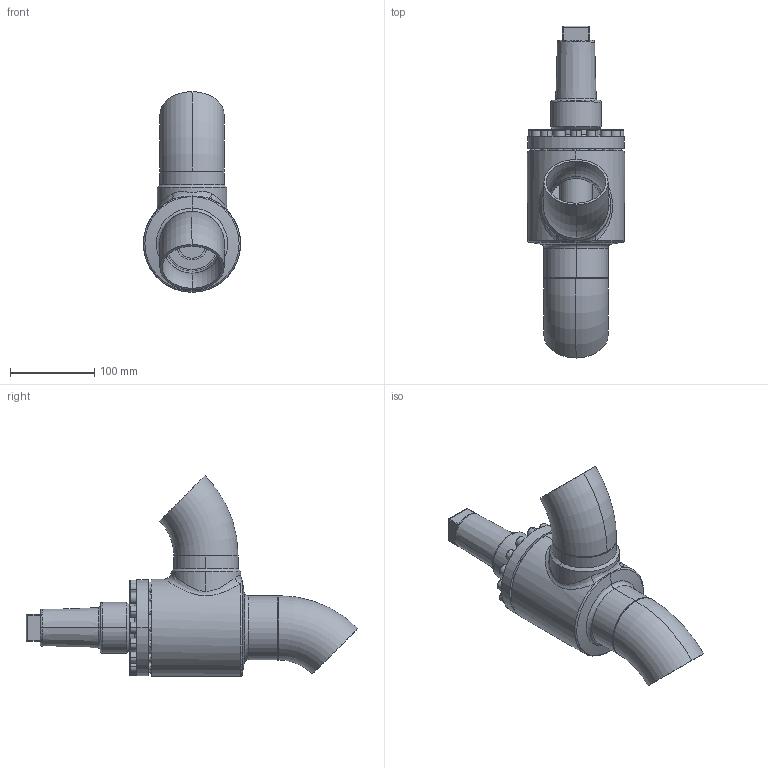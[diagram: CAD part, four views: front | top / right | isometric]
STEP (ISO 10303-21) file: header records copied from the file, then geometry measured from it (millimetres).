
FILE_DESCRIPTION (( 'STEP AP214' ), '1' );
FILE_NAME ('AVR26300D17-DN065_R1_PS40.STEP', '2006-04-27T13:24:42', ( 'Herr Grams' ), ( 'AWP GmbH' ), 'SwSTEP 2.0', 'SolidWorks 2002296', '' );
FILE_SCHEMA (( 'AUTOMOTIVE_DESIGN' ));
Length unit declared in the file: millimetre
Products named in the file (10): AVR26300D17-DN065_R1_PS40; Gehäuse-kpl16300-DN065_R1_Standard; Gehäuse16400-DN065_Standard; bead-DN065-2_Standard; Rohrbogen 45°_Rohrbogen-DN065-45°; bead-DN065-3_Standard; AVR26300K17_Deck+Schr-DN65_Standard; Deckel26300K17-DN65_Standard; Zylinderschraube-DIN912_M 8x 25; Kappe16402_DN040-65_Standard
Assembly tree (25 placements, depth 3):
  AVR26300D17-DN065_R1_PS40
    Kappe16402_DN040-65_Standard
    AVR26300K17_Deck+Schr-DN65_Standard
      Zylinderschraube-DIN912_M 8x 25  x16
      Deckel26300K17-DN65_Standard
    Gehäuse-kpl16300-DN065_R1_Standard
      bead-DN065-3_Standard
      Rohrbogen 45°_Rohrbogen-DN065-45°  x2
      Gehäuse16400-DN065_Standard
      bead-DN065-2_Standard
Bounding box: 115 x 393.08 x 237.58 mm (x, y, z)
Volume: 1017277.8 mm3; surface area: 289478.5 mm2
Topology: 23 solids, 23 shells, 470 faces, 1032 edges, 654 vertices
Faces by surface type: plane 199, cylinder 154, torus 55, cone 52, bspline 10
Entity records: 17575 total; most frequent: CARTESIAN_POINT 12233, DIRECTION 1048, ORIENTED_EDGE 900, EDGE_CURVE 450, AXIS2_PLACEMENT_3D 450, VERTEX_POINT 286, EDGE_LOOP 252, CIRCLE 236
